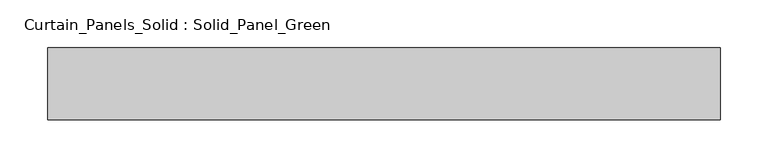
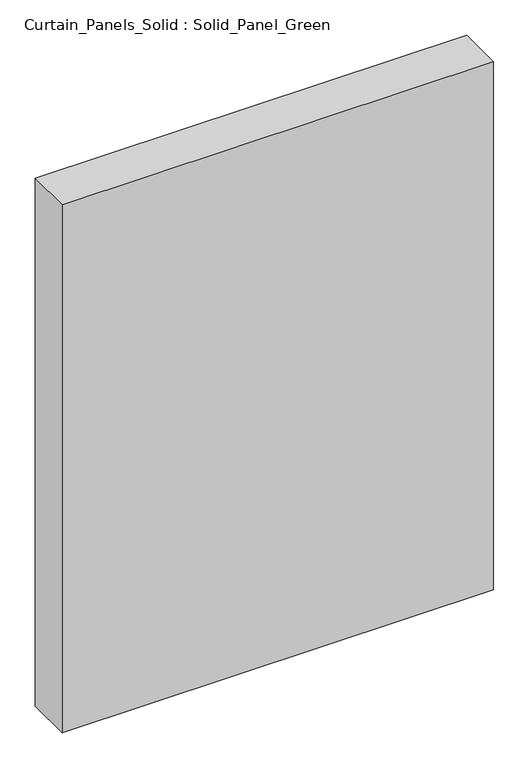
"""IFC4 building model written with IfcOpenShell, lengths in millimetres: plate geometry, Curtain_Panels_Solid : Solid_Panel_Green."""

from ifc_helpers import new_model, si_unit, origin, origin_with_axes, place, context, project, spatial, polyline, outline, extrude, source, transform, mapped, element, save


def curtain_panels_solid_solid_panel_green_a8c08363(model_context):
    return source(origin(), model_context, "Body", "SweptSolid", [
        extrude(outline(polyline([(351.2499999, -25.0), (-351.2499999, -25.0), (-351.2499999, 50.0), (351.2499999, 50.0), (351.2499999, -25.0)])), origin_with_axes(), (0.0, 0.0, 1.0), 907.5),
    ])


if __name__ == "__main__":
    model = new_model("IFC4")
    model_context = context("Model", 3, world=origin())
    ifc_project = project(units=[si_unit("LENGTHUNIT", "METRE", prefix="MILLI")], contexts=[model_context])
    site = spatial("IfcSite", under=ifc_project)
    building = spatial("IfcBuilding", under=site)
    placement = place(None, origin())
    curtain_panels_solid_solid_panel_green_shape = curtain_panels_solid_solid_panel_green_a8c08363(model_context)
    element("IfcPlate", 1, ObjectType="Curtain_Panels_Solid : Solid_Panel_Green", at=placement, inside=building, context=model_context, shape_type="MappedRepresentation", body=[
        mapped(curtain_panels_solid_solid_panel_green_shape, transform((0.0, 0.0, 0.0), x_axis=(1.0, 0.0, 0.0), y_axis=(0.0, 1.0, 0.0), z_axis=(0.0, 0.0, 1.0))),
    ])
    save(model, "model.ifc")
